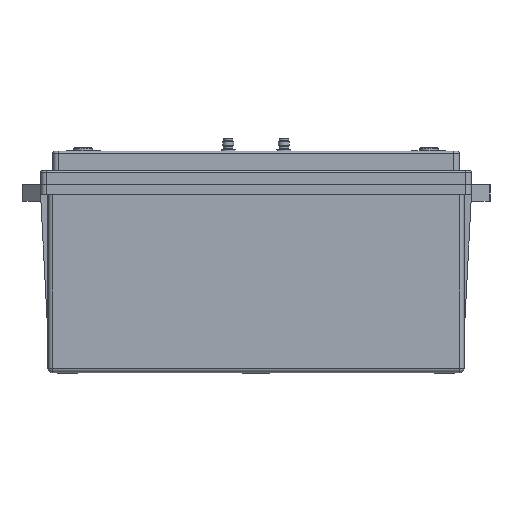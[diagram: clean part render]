
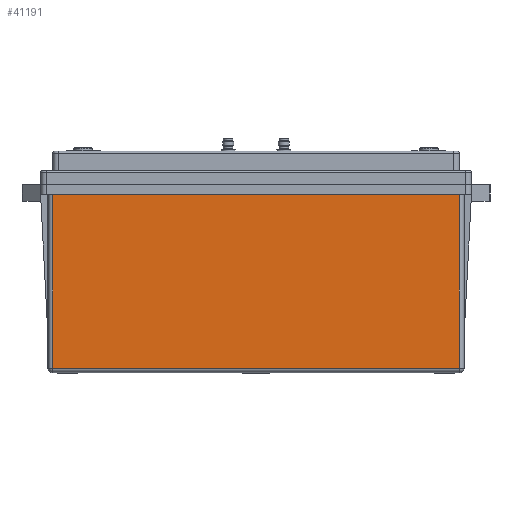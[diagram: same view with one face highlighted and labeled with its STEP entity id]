
A CAD part, front view. The second image highlights one B-rep face of the part: STEP entity #41191.
In plain terms, the highlighted planar face has unit normal (0, -1, 0).
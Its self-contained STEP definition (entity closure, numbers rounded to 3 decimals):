
#642 = DIRECTION ( 'NONE',  ( -1., 0., 0. ) ) ;
#869 = CARTESIAN_POINT ( 'NONE',  ( -1., 3., -97. ) ) ;
#1278 = LINE ( 'NONE', #13900, #23434 ) ;
#3749 = CARTESIAN_POINT ( 'NONE',  ( 11., 3., -97. ) ) ;
#4927 = DIRECTION ( 'NONE',  ( 0., 0., -1. ) ) ;
#11552 = VERTEX_POINT ( 'NONE', #3749 ) ;
#11600 = CARTESIAN_POINT ( 'NONE',  ( -1., 3., -1. ) ) ;
#11838 = DIRECTION ( 'NONE',  ( 0., 0., -1. ) ) ;
#13483 = VECTOR ( 'NONE', #642, 1000. ) ;
#13900 = CARTESIAN_POINT ( 'NONE',  ( 450., 3., -1. ) ) ;
#13962 = VERTEX_POINT ( 'NONE', #31473 ) ;
#14053 = EDGE_CURVE ( 'NONE', #19827, #13962, #14231, .T. ) ;
#14231 = LINE ( 'NONE', #37061, #47571 ) ;
#14845 = CARTESIAN_POINT ( 'NONE',  ( 11., 3., 90. ) ) ;
#18632 = DIRECTION ( 'NONE',  ( 0., -1., 0. ) ) ;
#19306 = ORIENTED_EDGE ( 'NONE', *, *, #14053, .F. ) ;
#19782 = EDGE_LOOP ( 'NONE', ( #39414, #36157, #19306, #47011 ) ) ;
#19827 = VERTEX_POINT ( 'NONE', #14845 ) ;
#22305 = EDGE_CURVE ( 'NONE', #11552, #19827, #22613, .T. ) ;
#22423 = AXIS2_PLACEMENT_3D ( 'NONE', #11600, #18632, #11838 ) ;
#22613 = LINE ( 'NONE', #33547, #33250 ) ;
#23434 = VECTOR ( 'NONE', #4927, 1000. ) ;
#25915 = EDGE_CURVE ( 'NONE', #13962, #37373, #1278, .T. ) ;
#26526 = EDGE_CURVE ( 'NONE', #37373, #11552, #26851, .T. ) ;
#26851 = LINE ( 'NONE', #869, #13483 ) ;
#28153 = PLANE ( 'NONE',  #22423 ) ;
#31473 = CARTESIAN_POINT ( 'NONE',  ( 450., 3., 90. ) ) ;
#32526 = FACE_OUTER_BOUND ( 'NONE', #19782, .T. ) ;
#33250 = VECTOR ( 'NONE', #44494, 1000. ) ;
#33547 = CARTESIAN_POINT ( 'NONE',  ( 11., 3., -1. ) ) ;
#36157 = ORIENTED_EDGE ( 'NONE', *, *, #25915, .F. ) ;
#36820 = DIRECTION ( 'NONE',  ( 1., 0., 0. ) ) ;
#37061 = CARTESIAN_POINT ( 'NONE',  ( 229.5, 3., 90. ) ) ;
#37373 = VERTEX_POINT ( 'NONE', #38842 ) ;
#38842 = CARTESIAN_POINT ( 'NONE',  ( 450., 3., -97. ) ) ;
#39414 = ORIENTED_EDGE ( 'NONE', *, *, #26526, .F. ) ;
#41191 = ADVANCED_FACE ( 'NONE', ( #32526 ), #28153, .T. ) ;
#44494 = DIRECTION ( 'NONE',  ( 0., 0., 1. ) ) ;
#47011 = ORIENTED_EDGE ( 'NONE', *, *, #22305, .F. ) ;
#47571 = VECTOR ( 'NONE', #36820, 1000. ) ;
